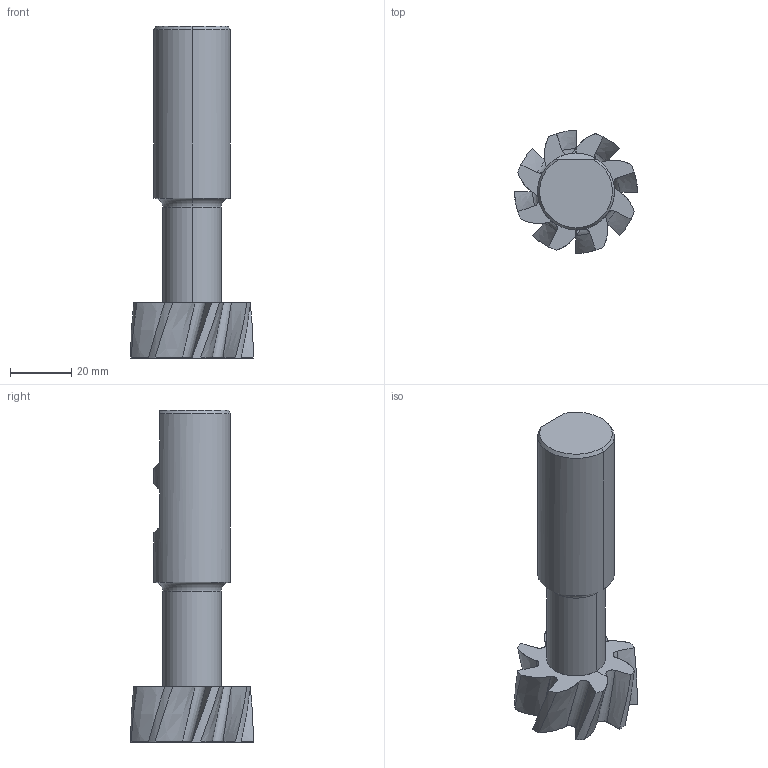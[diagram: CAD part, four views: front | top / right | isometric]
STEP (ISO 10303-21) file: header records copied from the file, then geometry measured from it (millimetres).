
FILE_DESCRIPTION(('no description'),'unknown implementation level');
FILE_NAME('solidHnXdSwjE7NtbTO4bSqXvzbrsfio_1.STP',' ',('CIMSOURCE GmbH'),('CADClick - KiM GmbH - www.kimweb.de'),'unknown preprocess','ACIS','unknown authorization');
FILE_SCHEMA(('automotive_design'));
Length unit declared in the file: millimetre
Products named in the file (2): NOCUT; CUT
Bounding box: 40 x 40 x 108 mm (x, y, z)
Volume: 51486.8 mm3; surface area: 16031 mm2
Topology: 2 solids, 2 shells, 135 faces, 380 edges, 249 vertices
Faces by surface type: bspline 96, cylinder 18, cone 10, plane 9, torus 2
Entity records: 23008 total; most frequent: CARTESIAN_POINT 16036, STYLED_ITEM 766, PRESENTATION_STYLE_ASSIGNMENT 766, COLOUR_RGB 766, ORIENTED_EDGE 760, EDGE_CURVE 380, CURVE_STYLE 380, DRAUGHTING_PRE_DEFINED_CURVE_FONT 380
